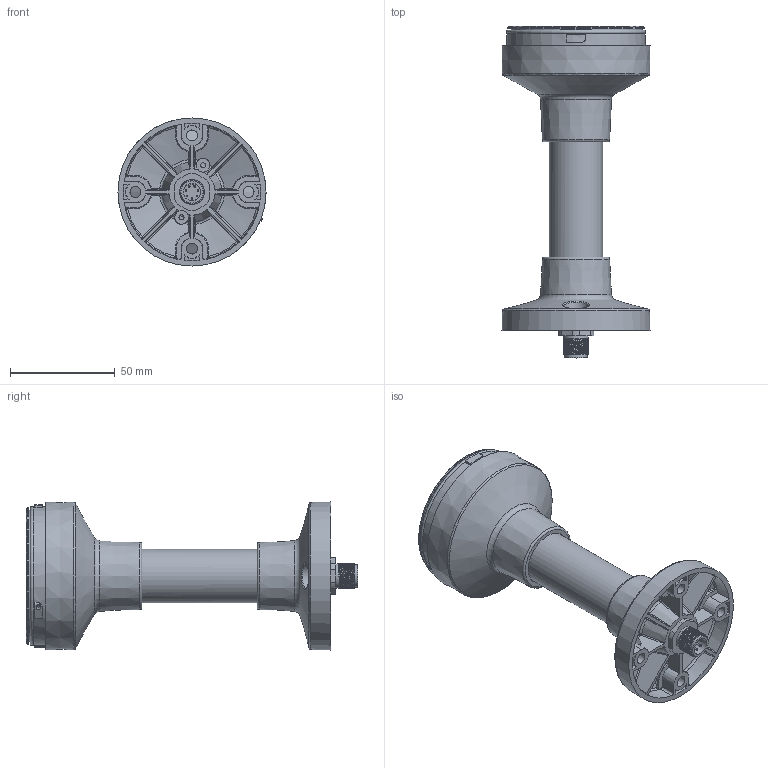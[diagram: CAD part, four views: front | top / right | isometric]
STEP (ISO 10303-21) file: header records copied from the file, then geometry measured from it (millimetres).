
FILE_DESCRIPTION(/* description */ (''),/* implementation_level */ '2;1');
FILE_NAME(/* name */ '3DCAD_A7_MP1_100_M12.stp',/* time_stamp */ '2020-01-31T10:20:25+01:00',/* author */ ('CC2'),/* organization */ ('Leuze electronic'),/* preprocessor_version */ 'ST-DEVELOPER v16',/* originating_system */ 'SIEMENS PLM Software NX 11.0',/* authorisation */ '');
FILE_SCHEMA (('AUTOMOTIVE_DESIGN { 1 0 10303 214 3 1 1 1 }'));
Length unit declared in the file: millimetre
Products named in the file (1): 19-103083_00_1-3DCAD_A7_MP1_100_M12
Bounding box: 70.6 x 158.3 x 70.6 mm (x, y, z)
Surface area: 69389.4 mm2
Topology: 5 solids, 6 shells, 1054 faces, 2938 edges, 1901 vertices
Faces by surface type: plane 526, bspline 192, cylinder 187, cone 89, torus 37, sphere 23
Full cylindrical faces by diameter (mm): 0.8 x7, 1 x6, 2.24 x2, 2.4 x5, 3.2 x3, 4.5 x2, 5.5 x1, 8.3 x1, 10.5 x1, 11.75 x2, 12 x4, 22.8 x1, 25.4 x1, 62.5 x1, 65.1 x1, 66 x1
Entity records: 61429 total; most frequent: CARTESIAN_POINT 36740, ORIENTED_EDGE 5526, DIRECTION 4455, EDGE_CURVE 2763, VERTEX_POINT 1821, AXIS2_PLACEMENT_3D 1566, LINE 1323, VECTOR 1323
